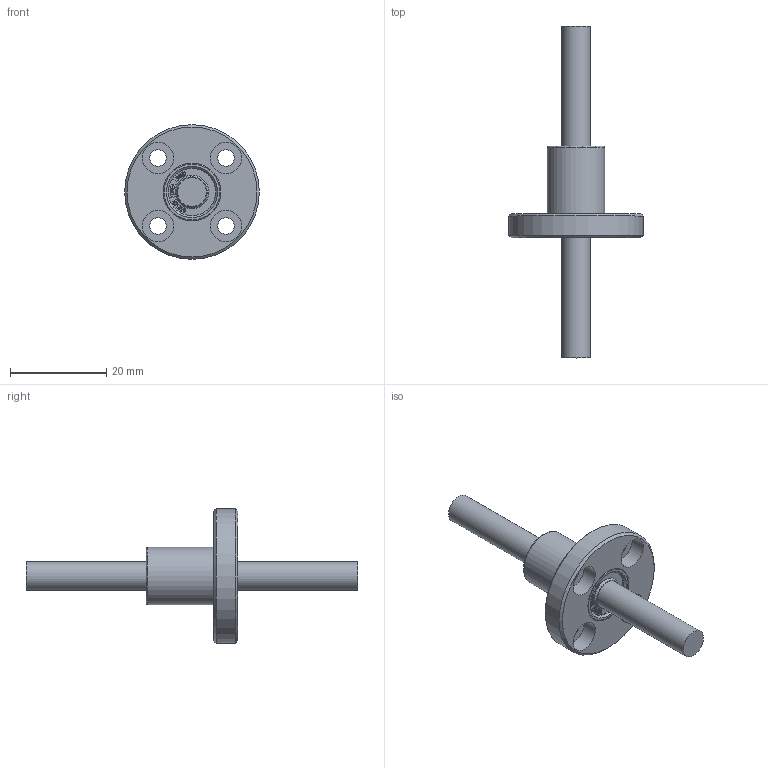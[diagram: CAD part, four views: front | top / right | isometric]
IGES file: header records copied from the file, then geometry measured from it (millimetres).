
Global section: file name: No Iges File Name specified; native system: Autodesk Inventor 2012; preprocessor: AutoDesk Inventor Iges Exporter R2012; author: user2; date: 20130206.155850; units: millimetre
Bounding box: 28 x 69 x 28 mm (x, y, z)
Volume: 5487.1 mm3; surface area: 3427.7 mm2
Topology: 1 solids, 1 shells, 809 faces, 2255 edges, 1502 vertices
Faces by surface type: bspline 568, plane 218, revolution 13, cone 4, cylinder 4, torus 2
Full cylindrical faces by diameter (mm): 6 x2, 12 x1, 28 x1
